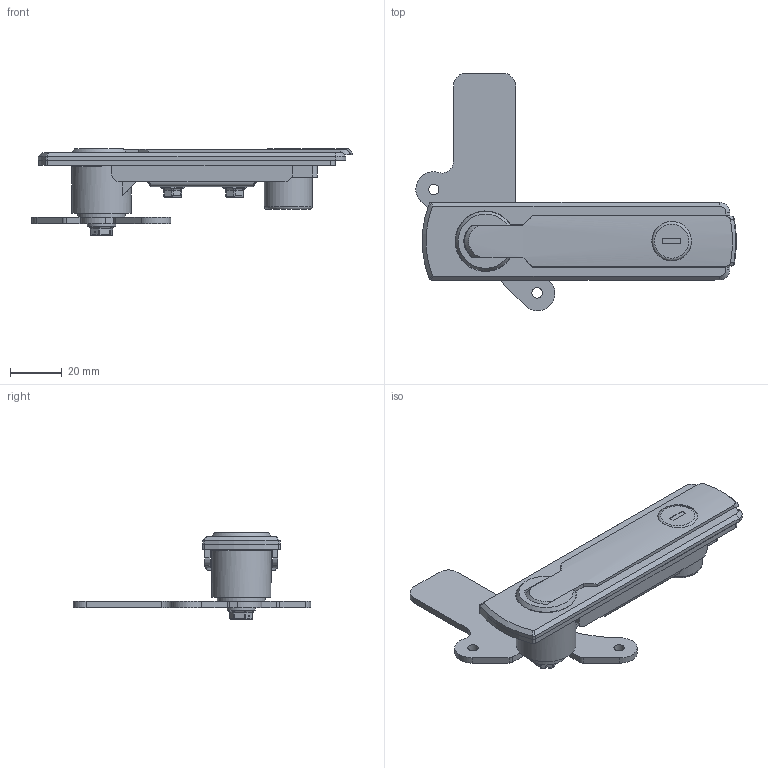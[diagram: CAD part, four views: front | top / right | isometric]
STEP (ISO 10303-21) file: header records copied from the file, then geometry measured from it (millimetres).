
FILE_DESCRIPTION(/* description */ (''),/* implementation_level */ '2;1');
FILE_NAME(/* name */ '\\NAS\db20\MS751-2\DR_MS751-2.stp',/* time_stamp */ '2017-08-01T15:05:31+09:00',/* author */ ('user'),/* organization */ (''),/* preprocessor_version */ 'ST-DEVELOPER v15.6',/* originating_system */ 'Autodesk Inventor 2015',/* authorisation */ '');
FILE_SCHEMA (('AUTOMOTIVE_DESIGN { 1 0 10303 214 3 1 1 }'));
Length unit declared in the file: millimetre
Products named in the file (9): DR_MS751-2-C; DR_MS751-2-G; DR_MS751-2-H; DR_MS751-2-P; DR_MS751-2-R; DR_MS751-2-SW; DR_m4-sc; DR_m5-sc; DR_MS751-2
Bounding box: 123.82 x 91.88 x 33.5 mm (x, y, z)
Volume: 39514.7 mm3; surface area: 37981.3 mm2
Topology: 12 solids, 12 shells, 530 faces, 1358 edges, 872 vertices
Faces by surface type: plane 311, cylinder 165, bspline 26, torus 17, cone 7, sphere 4
Full cylindrical faces by diameter (mm): 2.5 x3, 3 x3, 4 x6, 4.3 x2, 5 x2, 8 x4, 9.5 x2, 11 x1, 11.5 x1, 12 x2, 15.2 x1, 15.3 x1, 18.5 x2, 19.5 x1, 19.8 x1, 23 x1
Entity records: 14834 total; most frequent: CARTESIAN_POINT 3798, ORIENTED_EDGE 2236, DIRECTION 2190, EDGE_CURVE 1118, VERTEX_POINT 742, AXIS2_PLACEMENT_3D 742, LINE 706, VECTOR 706
